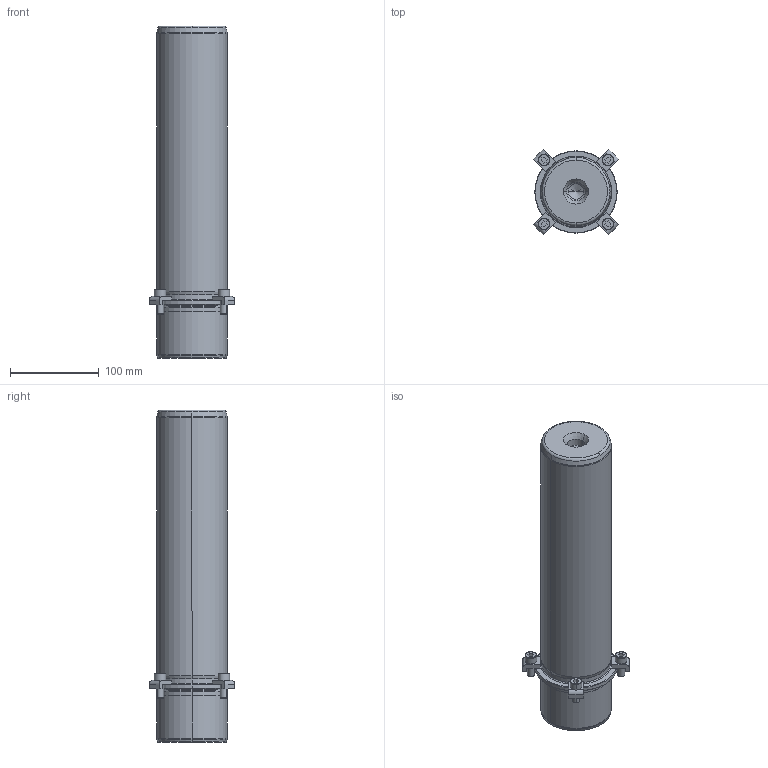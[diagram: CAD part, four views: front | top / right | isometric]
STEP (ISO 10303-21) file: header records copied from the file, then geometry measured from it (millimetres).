
FILE_DESCRIPTION((''),'2;1');
FILE_NAME('P21_080_315.stp','2008-12-19T11:26:36',(''),(''),'Mechanical Desktop 2009','Mechanical Desktop 2009',', , ');
FILE_SCHEMA(('CONFIG_CONTROL_DESIGN'));
Length unit declared in the file: millimetre
Products named in the file (2): Product; blmdl1
Assembly tree (1 placements, depth 2):
  Product
    blmdl1
Bounding box: 96.52 x 96.52 x 375 mm (x, y, z)
Volume: 1870497.1 mm3; surface area: 122095.8 mm2
Topology: 9 solids, 9 shells, 195 faces, 477 edges, 309 vertices
Faces by surface type: plane 77, cylinder 52, cone 34, torus 16, bspline 16
Entity records: 6547 total; most frequent: CARTESIAN_POINT 1683, DIRECTION 1078, ORIENTED_EDGE 946, EDGE_CURVE 473, AXIS2_PLACEMENT_3D 424, VERTEX_POINT 309, CIRCLE 243, VECTOR 230
